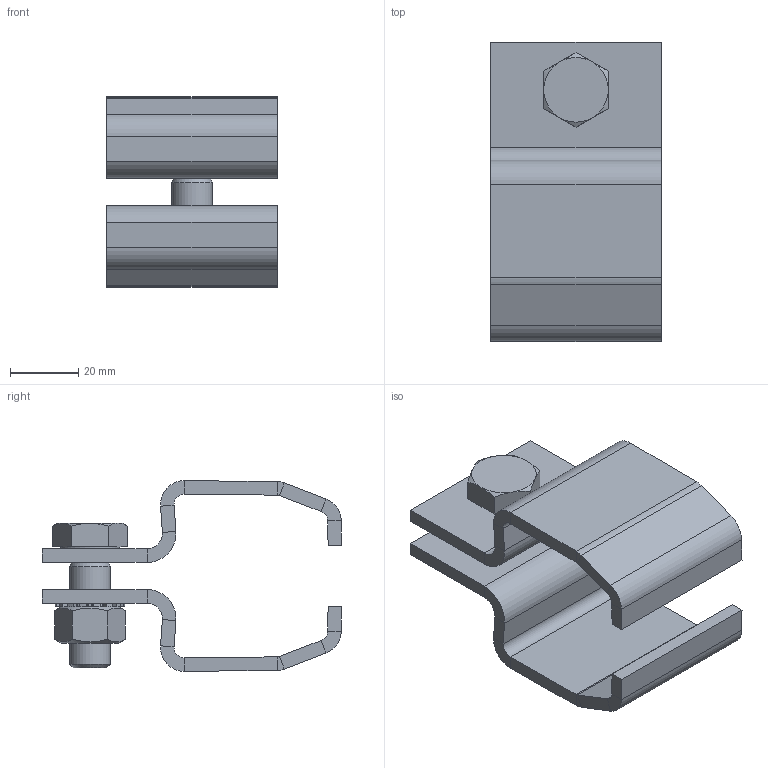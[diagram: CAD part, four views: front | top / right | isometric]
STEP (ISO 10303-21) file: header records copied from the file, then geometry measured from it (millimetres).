
FILE_DESCRIPTION(/* description */ ('Klemme Nr.2'),/* implementation_level */ '2;1');
FILE_NAME(/* name */ 'Q:\sge-ma\Produktmanagement-STB\STB\Workspace\TraceParts\Aufhängeklemme\010336730.stp',/* time_stamp */ '2018-02-21T11:30:57+01:00',/* author */ ('avschreier'),/* organization */ (''),/* preprocessor_version */ 'ST-DEVELOPER v16.1',/* originating_system */ 'Autodesk Inventor 2016',/* authorisation */ '');
FILE_SCHEMA (('CONFIG_CONTROL_DESIGN'));
Length unit declared in the file: millimetre
Products named in the file (5): 000302107; DIN_EN_ISO_4032-M12_en; DIN_6798-A_13_en; DIN_EN_ISO_4017-M12x35_en; 010336730
Assembly tree (5 placements, depth 2):
  010336730
    000302107  x2
    DIN_EN_ISO_4032-M12_en
    DIN_6798-A_13_en
    DIN_EN_ISO_4017-M12x35_en
Bounding box: 50 x 88 x 56.02 mm (x, y, z)
Volume: 52298.2 mm3; surface area: 29048.7 mm2
Topology: 5 solids, 5 shells, 211 faces, 521 edges, 322 vertices
Faces by surface type: plane 112, cylinder 87, cone 12
Full cylindrical faces by diameter (mm): 10.106 x1, 11.053 x1, 12 x1, 13 x3, 17.2 x1
Entity records: 5269 total; most frequent: CARTESIAN_POINT 938, DIRECTION 936, ORIENTED_EDGE 858, EDGE_CURVE 429, AXIS2_PLACEMENT_3D 349, VERTEX_POINT 279, LINE 238, VECTOR 238
